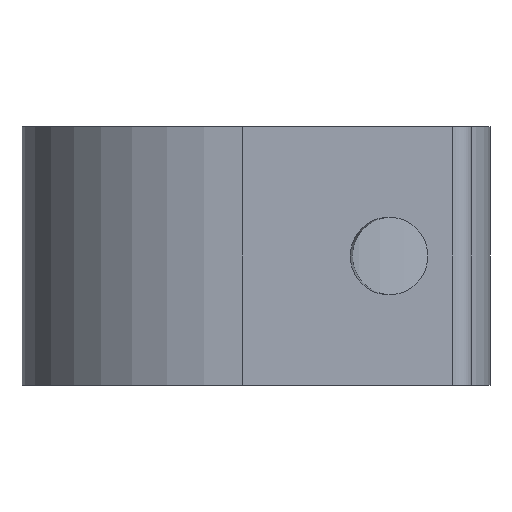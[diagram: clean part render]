
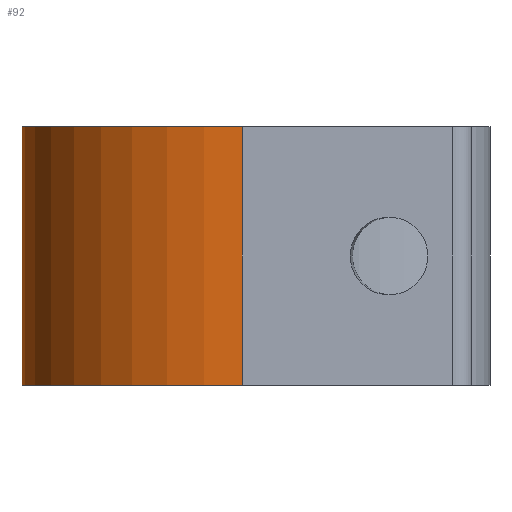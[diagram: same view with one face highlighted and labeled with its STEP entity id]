
A CAD part, left-side view. The second image highlights one B-rep face of the part: STEP entity #92.
In plain terms, the highlighted cylindrical face has radius 11.906 mm (diameter 23.812 mm), a partial arc.
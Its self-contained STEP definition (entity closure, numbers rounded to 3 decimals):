
#92 = ADVANCED_FACE( '', ( #138 ), #139, .T. );
#138 = FACE_OUTER_BOUND( '', #195, .T. );
#139 = CYLINDRICAL_SURFACE( '', #196, 11.906 );
#195 = EDGE_LOOP( '', ( #354, #355, #356, #357 ) );
#196 = AXIS2_PLACEMENT_3D( '', #358, #359, #360 );
#354 = ORIENTED_EDGE( '', *, *, #508, .T. );
#355 = ORIENTED_EDGE( '', *, *, #457, .T. );
#356 = ORIENTED_EDGE( '', *, *, #477, .T. );
#357 = ORIENTED_EDGE( '', *, *, #509, .F. );
#358 = CARTESIAN_POINT( '', ( -5.563, -5.94, 0. ) );
#359 = DIRECTION( '', ( 0., 0., -1. ) );
#360 = DIRECTION( '', ( 1., 0., 0. ) );
#457 = EDGE_CURVE( '', #536, #541, #543, .T. );
#477 = EDGE_CURVE( '', #541, #579, #581, .T. );
#508 = EDGE_CURVE( '', #629, #536, #630, .T. );
#509 = EDGE_CURVE( '', #629, #579, #631, .T. );
#536 = VERTEX_POINT( '', #666 );
#541 = VERTEX_POINT( '', #673 );
#543 = LINE( '', #676, #677 );
#579 = VERTEX_POINT( '', #719 );
#581 = CIRCLE( '', #722, 11.906 );
#629 = VERTEX_POINT( '', #789 );
#630 = CIRCLE( '', #790, 11.906 );
#631 = LINE( '', #791, #792 );
#666 = CARTESIAN_POINT( '', ( -5.563, 5.967, 14. ) );
#673 = CARTESIAN_POINT( '', ( -5.563, 5.967, 0. ) );
#676 = CARTESIAN_POINT( '', ( -5.563, 5.967, 0. ) );
#677 = VECTOR( '', #825, 1000. );
#719 = CARTESIAN_POINT( '', ( -17.469, -5.94, 0. ) );
#722 = AXIS2_PLACEMENT_3D( '', #869, #870, #871 );
#789 = CARTESIAN_POINT( '', ( -17.469, -5.94, 14. ) );
#790 = AXIS2_PLACEMENT_3D( '', #924, #925, #926 );
#791 = CARTESIAN_POINT( '', ( -17.469, -5.94, 0. ) );
#792 = VECTOR( '', #927, 1000. );
#825 = DIRECTION( '', ( 0., 0., -1. ) );
#869 = CARTESIAN_POINT( '', ( -5.563, -5.94, 0. ) );
#870 = DIRECTION( '', ( 0., 0., 1. ) );
#871 = DIRECTION( '', ( 1., 0., 0. ) );
#924 = CARTESIAN_POINT( '', ( -5.563, -5.94, 14. ) );
#925 = DIRECTION( '', ( 0., 0., -1. ) );
#926 = DIRECTION( '', ( 1., 0., 0. ) );
#927 = DIRECTION( '', ( 0., 0., -1. ) );
